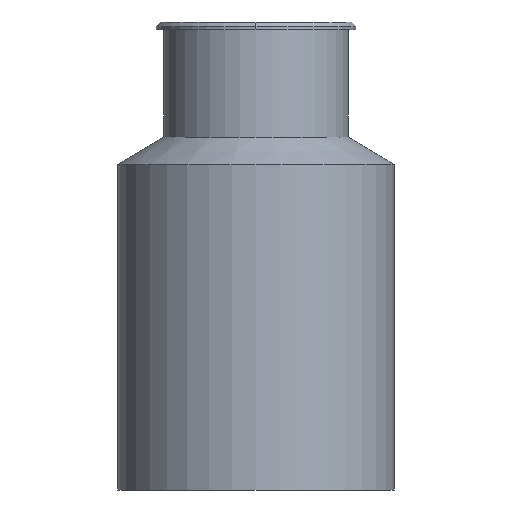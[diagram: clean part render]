
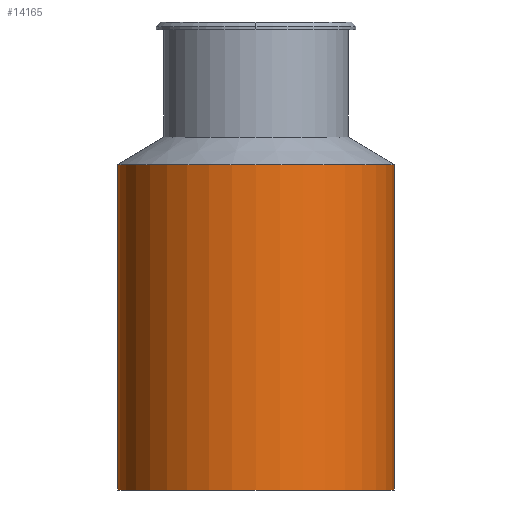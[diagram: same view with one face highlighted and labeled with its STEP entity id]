
A CAD part, front view. The second image highlights one B-rep face of the part: STEP entity #14165.
In plain terms, the highlighted cylindrical face has radius 45 mm (diameter 90 mm), a partial arc.
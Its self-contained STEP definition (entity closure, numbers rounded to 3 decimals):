
#13557=CARTESIAN_POINT('',(0.,0.,0.));
#13558=DIRECTION('',(0.,0.,-1.));
#13559=DIRECTION('',(1.,0.,0.));
#13560=AXIS2_PLACEMENT_3D('',#13557,#13558,#13559);
#13572=DIRECTION('',(0.,0.,1.));
#13573=VECTOR('',#13572,106.);
#13574=CARTESIAN_POINT('',(45.,0.,-106.));
#13575=LINE('',#13574,#13573);
#13576=DIRECTION('',(0.,0.,1.));
#13577=VECTOR('',#13576,106.);
#13578=CARTESIAN_POINT('',(-45.,0.,-106.));
#13579=LINE('',#13578,#13577);
#13589=CARTESIAN_POINT('',(0.,0.,-106.));
#13590=DIRECTION('',(0.,0.,1.));
#13591=DIRECTION('',(-1.,0.,0.));
#13592=AXIS2_PLACEMENT_3D('',#13589,#13590,#13591);
#13992=CARTESIAN_POINT('',(-45.,0.,0.));
#13993=CARTESIAN_POINT('',(45.,0.,0.));
#13994=VERTEX_POINT('',#13992);
#13995=VERTEX_POINT('',#13993);
#14000=CARTESIAN_POINT('',(45.,0.,-106.));
#14001=VERTEX_POINT('',#14000);
#14002=CARTESIAN_POINT('',(-45.,0.,-106.));
#14003=VERTEX_POINT('',#14002);
#14153=CARTESIAN_POINT('',(0.,0.,7.5));
#14154=DIRECTION('',(0.,0.,-1.));
#14155=DIRECTION('',(1.,0.,0.));
#14156=AXIS2_PLACEMENT_3D('',#14153,#14154,#14155);
#14157=CYLINDRICAL_SURFACE('',#14156,45.);
#14158=ORIENTED_EDGE('',*,*,#14143,.F.);
#14160=ORIENTED_EDGE('',*,*,#14159,.F.);
#14161=ORIENTED_EDGE('',*,*,#14146,.T.);
#14162=ORIENTED_EDGE('',*,*,#14127,.F.);
#14163=EDGE_LOOP('',(#14158,#14160,#14161,#14162));
#14164=FACE_OUTER_BOUND('',#14163,.F.);
#14165=ADVANCED_FACE('',(#14164),#14157,.T.);
#13561=CIRCLE('',#13560,45.);
#13593=CIRCLE('',#13592,45.);
#14127=EDGE_CURVE('',#13995,#13994,#13561,.T.);
#14143=EDGE_CURVE('',#14001,#13995,#13575,.T.);
#14146=EDGE_CURVE('',#14003,#13994,#13579,.T.);
#14159=EDGE_CURVE('',#14003,#14001,#13593,.T.);
